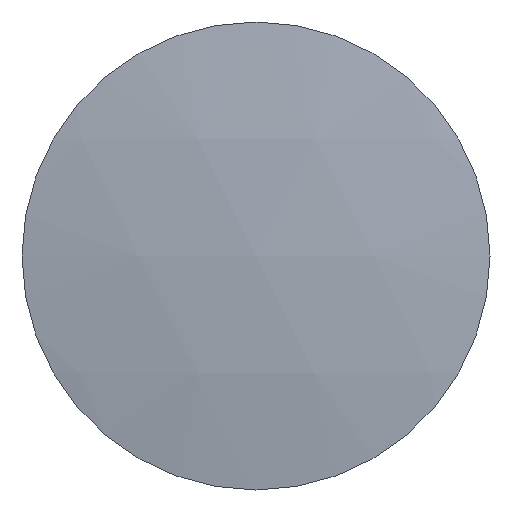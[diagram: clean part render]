
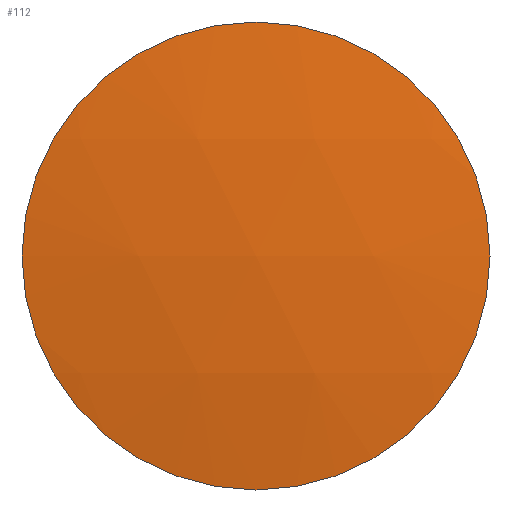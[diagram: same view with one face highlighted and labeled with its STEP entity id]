
A CAD part, front view. The second image highlights one B-rep face of the part: STEP entity #112.
In plain terms, the highlighted spherical face has radius 60.542 mm.
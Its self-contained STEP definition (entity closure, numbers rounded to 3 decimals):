
#70 = VERTEX_POINT( '', #162 );
#92 = EDGE_CURVE( '', #70, #124, #185, .T. );
#108 = EDGE_CURVE( '', #124, #70, #202, .T. );
#112 = ADVANCED_FACE( '', ( #207 ), #208, .T. );
#124 = VERTEX_POINT( '', #221 );
#162 = CARTESIAN_POINT( '', ( 0., -27.25, -9.5 ) );
#185 = CIRCLE( '', #281, 9.5 );
#202 = CIRCLE( '', #305, 9.5 );
#207 = FACE_OUTER_BOUND( '', #310, .T. );
#208 = SPHERICAL_SURFACE( '', #311, 60.542 );
#221 = CARTESIAN_POINT( '', ( 0., -27.25, 9.5 ) );
#281 = AXIS2_PLACEMENT_3D( '', #378, #379, #380 );
#305 = AXIS2_PLACEMENT_3D( '', #402, #403, #404 );
#310 = EDGE_LOOP( '', ( #414, #415 ) );
#311 = AXIS2_PLACEMENT_3D( '', #416, #417, #418 );
#378 = CARTESIAN_POINT( '', ( 0., -27.25, 0. ) );
#379 = DIRECTION( '', ( 0., -1., 0. ) );
#380 = DIRECTION( '', ( 0., 0., 1. ) );
#402 = CARTESIAN_POINT( '', ( 0., -27.25, 0. ) );
#403 = DIRECTION( '', ( 0., -1., 0. ) );
#404 = DIRECTION( '', ( 0., 0., 1. ) );
#414 = ORIENTED_EDGE( '', *, *, #108, .T. );
#415 = ORIENTED_EDGE( '', *, *, #92, .T. );
#416 = CARTESIAN_POINT( '', ( 0., 32.542, 0. ) );
#417 = DIRECTION( '', ( 0., 0., 1. ) );
#418 = DIRECTION( '', ( 1., 0., 0. ) );
